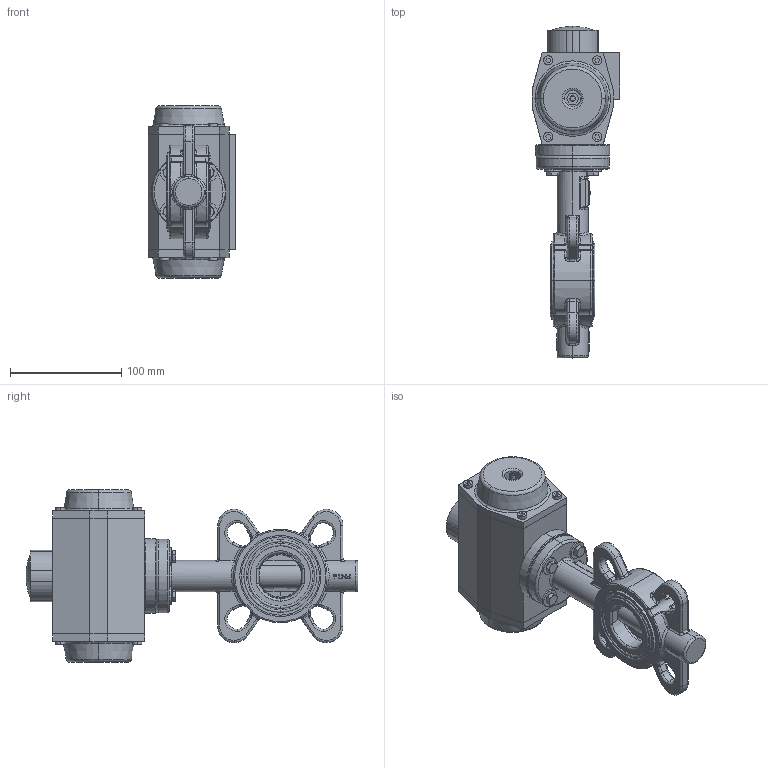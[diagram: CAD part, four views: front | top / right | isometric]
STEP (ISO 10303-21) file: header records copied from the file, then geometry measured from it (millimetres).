
FILE_DESCRIPTION (( 'STEP AP214' ), '1' );
FILE_NAME ('VTB200 DN40 + AP2D.STEP', '2015-10-04T19:15:49', ( '' ), ( '' ), 'SwSTEP 2.0', 'SolidWorks 2013', '' );
FILE_SCHEMA (( 'AUTOMOTIVE_DESIGN' ));
Length unit declared in the file: millimetre
Products named in the file (10): Huis met zitting DN40 2013; VTB200 DN40 + AP2D; plain washer 6902 type abc_din_DIN 6902-A7.4; hex bolt gradeab_din_ISO 4014 - M6 x 35 x 18-N; YF067F5F5H10D15NYL; Verloopvierkant 11_9; AP2 - F5_Default<As Machined>; VTB200 Wafer DN40 BS; Typeplaatje 20mm; Klep VTB200 DN40 2013
Assembly tree (15 placements, depth 3):
  VTB200 DN40 + AP2D
    VTB200 Wafer DN40 BS
      Huis met zitting DN40 2013
      Klep VTB200 DN40 2013
      Typeplaatje 20mm
    AP2 - F5_Default<As Machined>
    Verloopvierkant 11_9
    YF067F5F5H10D15NYL
    hex bolt gradeab_din_ISO 4014 - M6 x 35 x 18-N  x4
    plain washer 6902 type abc_din_DIN 6902-A7.4  x4
Bounding box: 79 x 298.99 x 155 mm (x, y, z)
Volume: 1183959.8 mm3; surface area: 156569.1 mm2
Topology: 21 solids, 21 shells, 1132 faces, 2675 edges, 1615 vertices
Faces by surface type: plane 411, cylinder 278, bspline 161, torus 140, cone 116, sphere 26
Entity records: 42874 total; most frequent: CARTESIAN_POINT 17312, ORIENTED_EDGE 4828, DIRECTION 4658, EDGE_CURVE 2414, AXIS2_PLACEMENT_3D 1766, VERTEX_POINT 1489, EDGE_LOOP 1141, VECTOR 1126
